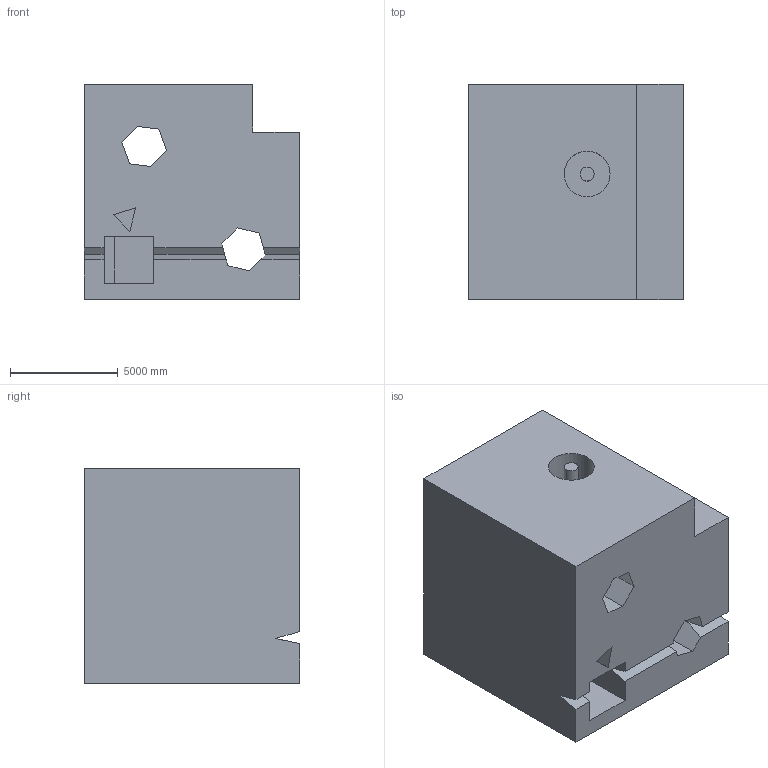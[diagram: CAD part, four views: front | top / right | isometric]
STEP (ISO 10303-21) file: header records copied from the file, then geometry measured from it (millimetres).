
FILE_DESCRIPTION (( 'STEP AP203' ), '1' );
FILE_NAME ('1743.STEP', '2022-08-19T12:18:12', ( 'user' ), ( '' ), 'SwSTEP 2.0', 'SolidWorks 2021', '' );
FILE_SCHEMA (( 'CONFIG_CONTROL_DESIGN' ));
Length unit declared in the file: centimetre
Products named in the file (1): 1743
Bounding box: 10000 x 10000 x 10000 mm (x, y, z)
Volume: 840239556169.2 mm3; surface area: 845092635.9 mm2
Topology: 1 solids, 1 shells, 46 faces, 126 edges, 84 vertices
Faces by surface type: plane 42, cylinder 4
Entity records: 1523 total; most frequent: CARTESIAN_POINT 257, ORIENTED_EDGE 252, DIRECTION 228, EDGE_CURVE 126, VECTOR 118, LINE 118, VERTEX_POINT 84, AXIS2_PLACEMENT_3D 55
